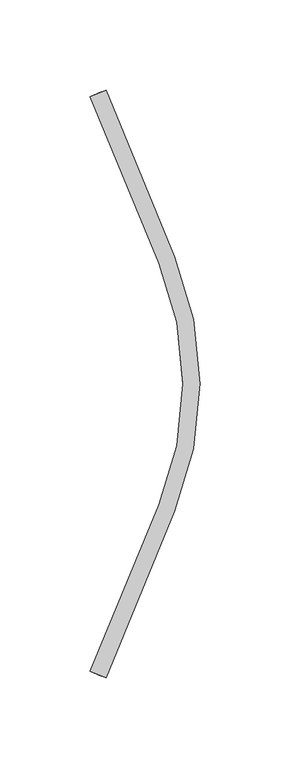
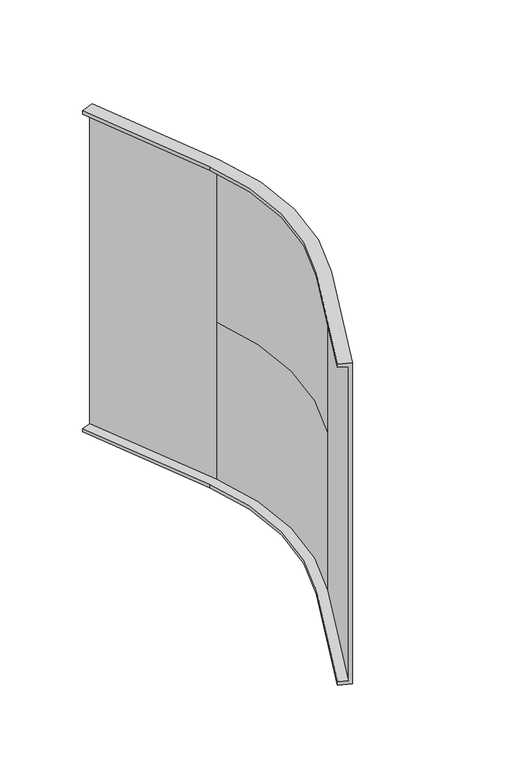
"""IFC4 building model written with IfcOpenShell, lengths in millimetres: cable carrier fitting geometry, CCT_Hyperline_FBTR-ERS45-CVR Крышка на угол 45° внешний (вниз) для оптического лотка : Крышка на угол 45° внешний (вниз) для оптического лотка."""

from ifc_helpers import new_model, si_unit, frame, origin, place, context, project, spatial, polyline, circle_curve, source, transform, mapped, element, save
from ifc_brep_helpers import plane_surface, cylinder_surface, revolved_surface, advanced_brep


def cable_carrier_fitting_f52470ef(model_context):
    return source(origin(), model_context, "Body", "AdvancedBrep", [
        advanced_brep(
        [(106.4671567, 150.6353776, 120.0), (100.0, 147.9565936, 120.0), (100.0, 147.9565936, 122.54), (108.8138107, 151.6073935, 122.54), (108.8138107, 151.6073935, -122.54), (100.0, 147.9565936, -122.54), (100.0, 147.9565936, -120.0), (106.4671567, 150.6353776, -120.0), (138.2683432, 55.5686403, -120.0), (138.2683432, -78.370561, -120.0), (100.0, -170.7585143, -120.0), (106.4671567, -173.4372983, -120.0), (144.7355, -81.049345, -120.0), (144.7355, 58.2474243, -120.0), (138.2683432, 55.5686403, -122.54), (147.082154, 59.2194402, -122.54), (147.082154, -82.021361, -122.54), (108.8138107, -174.4093142, -122.54), (100.0, -170.7585143, -122.54), (138.2683432, -78.370561, -122.54), (147.082154, 59.2194402, 122.54), (147.082154, 59.2194402, 0.0), (144.7355, 58.2474243, 0.0), (144.7355, 58.2474243, 120.0), (147.082154, -82.021361, 0.0), (144.7355, -81.049345, 0.0), (108.8138107, -174.4093142, 122.54), (100.0, -170.7585143, 122.54), (100.0, -170.7585143, 120.0), (106.4671567, -173.4372983, 120.0), (147.082154, -82.021361, 122.54), (144.7355, -81.049345, 120.0), (138.2683432, -78.370561, 120.0), (138.2683432, 55.5686403, 120.0), (138.2683432, 55.5686403, 122.54), (138.2683432, -78.370561, 122.54)],
        [
            (0, 1),
            (1, 2),
            (2, 3),
            (3, 4),
            (4, 5),
            (5, 6),
            (6, 7),
            (7, 0),
            (6, 8),
            (8, 9, circle_curve(frame((-23.410575, -11.4009604, -120.0), z_axis=(0.0, 0.0, -1.0), x_axis=(0.9238795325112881, 0.38268343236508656, 0.0)), 175.0)),
            (9, 10),
            (10, 11),
            (11, 12),
            (12, 13, circle_curve(frame((-23.410575, -11.4009604, -120.0), z_axis=(0.0, 0.0, 1.0), x_axis=(0.9238795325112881, 0.38268343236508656, 0.0)), 182.0)),
            (13, 7),
            (5, 14),
            (14, 8),
            (4, 15),
            (15, 16, circle_curve(frame((-23.410575, -11.4009604, -122.54), z_axis=(0.0, 0.0, -1.0), x_axis=(0.9238795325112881, 0.38268343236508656, 0.0)), 184.54)),
            (16, 17),
            (17, 18),
            (18, 19),
            (19, 14, circle_curve(frame((-23.410575, -11.4009604, -122.54), z_axis=(0.0, 0.0, 1.0), x_axis=(0.9238795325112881, 0.38268343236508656, 0.0)), 175.0)),
            (3, 20),
            (20, 21),
            (21, 15),
            (13, 22),
            (22, 23),
            (23, 0),
            (19, 9),
            (21, 24, circle_curve(frame((-23.410575, -11.4009604, 0.0), z_axis=(0.0, 0.0, -1.0), x_axis=(0.9238795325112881, 0.38268343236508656, 0.0)), 184.54)),
            (24, 16),
            (12, 25),
            (25, 22, circle_curve(frame((-23.410575, -11.4009604, 0.0), z_axis=(0.0, 0.0, 1.0), x_axis=(0.9238795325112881, 0.38268343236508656, 0.0)), 182.0)),
            (10, 18),
            (17, 26),
            (26, 27),
            (27, 28),
            (28, 29),
            (29, 11),
            (24, 30),
            (30, 26),
            (29, 31),
            (31, 25),
            (23, 31, circle_curve(frame((-23.410575, -11.4009604, 120.0), z_axis=(0.0, 0.0, -1.0), x_axis=(0.9238795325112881, 0.3826834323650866, 0.0)), 182.0)),
            (28, 32),
            (32, 33, circle_curve(frame((-23.410575, -11.4009604, 120.0), z_axis=(0.0, 0.0, 1.0), x_axis=(0.9238795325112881, 0.3826834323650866, 0.0)), 175.0)),
            (33, 1),
            (33, 34),
            (34, 2),
            (34, 35, circle_curve(frame((-23.410575, -11.4009604, 122.54), z_axis=(0.0, 0.0, -1.0), x_axis=(0.9238795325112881, 0.3826834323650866, 0.0)), 175.0)),
            (35, 27),
            (30, 20, circle_curve(frame((-23.410575, -11.4009604, 122.54), z_axis=(0.0, 0.0, 1.0), x_axis=(0.9238795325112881, 0.3826834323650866, 0.0)), 184.54)),
            (32, 35),
        ],
        [
            plane_surface(frame((104.6193977, 149.8700107, -55.0), z_axis=(-0.38268343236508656, 0.9238795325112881, 0.0), x_axis=(0.0, 0.0, 1.0))),
            plane_surface(frame((100.0, 147.9565936, -120.0), z_axis=(0.0, 0.0, 1.0), x_axis=(0.38268343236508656, -0.9238795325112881, 0.0))),
            plane_surface(frame((100.0, 147.9565936, -122.54), z_axis=(-0.9238795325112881, -0.38268343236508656, 0.0), x_axis=(0.38268343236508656, -0.9238795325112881, 0.0))),
            plane_surface(frame((108.8138107, 151.6073935, -122.54), z_axis=(0.0, 0.0, -1.0), x_axis=(0.38268343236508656, -0.9238795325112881, 0.0))),
            plane_surface(frame((108.8138107, 151.6073935, 0.0), z_axis=(0.9238795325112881, 0.38268343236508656, 0.0), x_axis=(0.38268343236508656, -0.9238795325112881, 0.0))),
            plane_surface(frame((106.4671567, 150.6353776, -120.0), z_axis=(-0.9238795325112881, -0.38268343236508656, 0.0), x_axis=(0.38268343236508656, -0.9238795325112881, 0.0))),
            revolved_surface(polyline([(138.26834318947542, 55.568640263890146, -122.54), (138.26834318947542, 55.568640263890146, -120.0)]), (-23.410575, -11.4009604, -55.0), (0.0, 0.0, -1.0)),
            cylinder_surface(frame((-23.410575, -11.4009604, -55.0), z_axis=(0.0, 0.0, -1.0), x_axis=(0.9238795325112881, 0.38268343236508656, 0.0)), 184.54),
            revolved_surface(polyline([(144.73549991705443, 58.24742429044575, -120.0), (144.73549991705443, 58.24742429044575, 0.0)]), (-23.410575, -11.4009604, -55.0), (0.0, 0.0, -1.0)),
            plane_surface(frame((104.6193977, -172.6719314, -55.0), z_axis=(-0.3826834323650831, -0.9238795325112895, 0.0), x_axis=(0.0, 0.0, 1.0))),
            plane_surface(frame((138.2683432, -78.370561, -122.54), z_axis=(-0.9238795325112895, 0.3826834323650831, 0.0), x_axis=(-0.3826834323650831, -0.9238795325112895, 0.0))),
            plane_surface(frame((147.082154, -82.021361, 0.0), z_axis=(0.9238795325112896, -0.38268343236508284, 0.0), x_axis=(-0.38268343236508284, -0.9238795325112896, 0.0))),
            plane_surface(frame((144.7355, -81.049345, -120.0), z_axis=(-0.9238795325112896, 0.38268343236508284, 0.0), x_axis=(-0.38268343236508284, -0.9238795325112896, 0.0))),
            plane_surface(frame((106.4671567, 150.6353776, 120.0), z_axis=(0.0, 0.0, -1.0), x_axis=(0.38268343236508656, -0.9238795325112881, 0.0))),
            plane_surface(frame((100.0, 147.9565936, 120.0), z_axis=(-0.9238795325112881, -0.38268343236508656, 0.0), x_axis=(0.38268343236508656, -0.9238795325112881, 0.0))),
            plane_surface(frame((100.0, 147.9565936, 122.54), z_axis=(0.0, 0.0, 1.0), x_axis=(0.38268343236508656, -0.9238795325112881, 0.0))),
            revolved_surface(polyline([(138.26834318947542, 55.56864026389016, 120.0), (138.26834318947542, 55.56864026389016, 122.54)]), (-23.410575, -11.4009604, 55.0), (0.0, 0.0, -1.0)),
            cylinder_surface(frame((-23.410575, -11.4009604, 55.0), z_axis=(0.0, 0.0, -1.0), x_axis=(0.9238795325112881, 0.3826834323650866, 0.0)), 184.54),
            revolved_surface(polyline([(144.73549991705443, 58.247424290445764, 0.0), (144.73549991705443, 58.247424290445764, 120.0)]), (-23.410575, -11.4009604, 55.0), (0.0, 0.0, -1.0)),
            plane_surface(frame((138.2683432, -78.370561, 120.0), z_axis=(-0.9238795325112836, 0.3826834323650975, 0.0), x_axis=(-0.3826834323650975, -0.9238795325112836, 0.0))),
        ],
        [
            (0, [[1, 2, 3, 4, 5, 6, 7, 8]]),
            (1, [[-7, 9, 10, 11, 12, 13, 14, 15]]),
            (2, [[-6, 16, 17, -9]]),
            (3, [[-5, 18, 19, 20, 21, 22, 23, -16]]),
            (4, [[-4, 24, 25, 26, -18]]),
            (5, [[-8, -15, 27, 28, 29]]),
            (6, [[-10, -17, -23, 30]]),
            (7, [[-19, -26, 31, 32]]),
            (8, [[-14, 33, 34, -27]]),
            (9, [[-12, 35, -21, 36, 37, 38, 39, 40]]),
            (10, [[-11, -30, -22, -35]]),
            (11, [[-36, -20, -32, 41, 42]]),
            (12, [[-13, -40, 43, 44, -33]]),
            (13, [[-1, -29, 45, -43, -39, 46, 47, 48]]),
            (14, [[-2, -48, 49, 50]]),
            (15, [[-3, -50, 51, 52, -37, -42, 53, -24]]),
            (16, [[-47, 54, -51, -49]]),
            (17, [[-53, -41, -31, -25]]),
            (18, [[-45, -28, -34, -44]]),
            (19, [[-46, -38, -52, -54]]),
        ],
    ),
    ])


if __name__ == "__main__":
    model = new_model("IFC4")
    model_context = context("Model", 3, world=origin())
    ifc_project = project(units=[si_unit("LENGTHUNIT", "METRE", prefix="MILLI")], contexts=[model_context])
    site = spatial("IfcSite", under=ifc_project)
    building = spatial("IfcBuilding", under=site)
    placement = place(None, origin())
    cable_carrier_fitting_shape = cable_carrier_fitting_f52470ef(model_context)
    element("IfcCableCarrierFitting", 1, ObjectType="CCT_Hyperline_FBTR-ERS45-CVR Крышка на угол 45° внешний (вниз) для оптического лотка : Крышка на угол 45° внешний (вниз) для оптического лотка", at=placement, inside=building, context=model_context, shape_type="MappedRepresentation", body=[
        mapped(cable_carrier_fitting_shape, transform((0.0, 0.0, 0.0), x_axis=(1.0, 0.0, 0.0), y_axis=(0.0, 1.0, 0.0), z_axis=(0.0, 0.0, 1.0))),
    ])
    save(model, "model.ifc")
